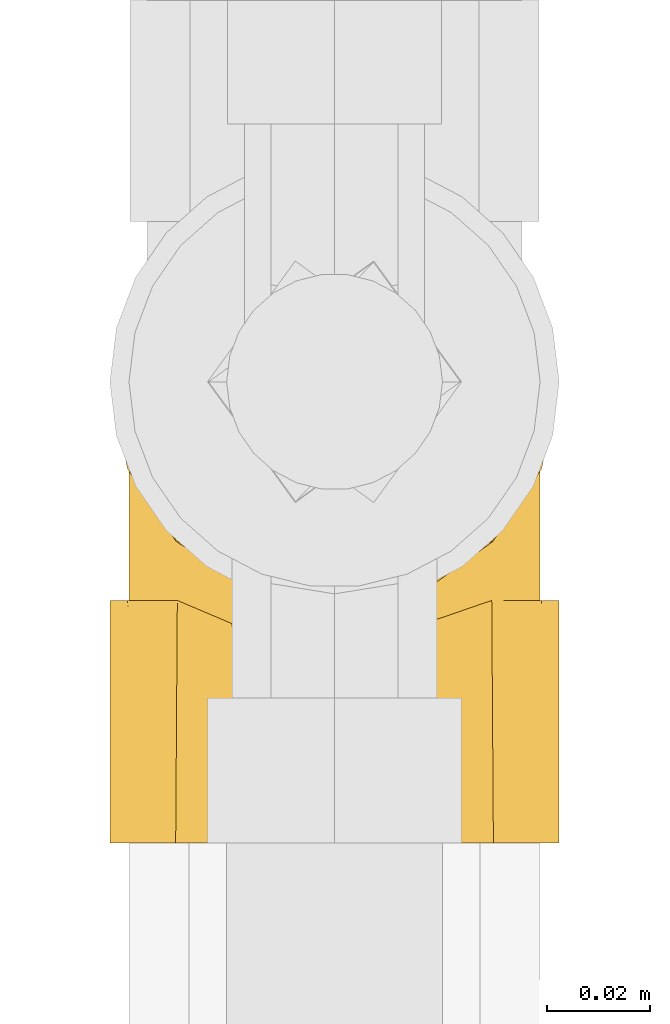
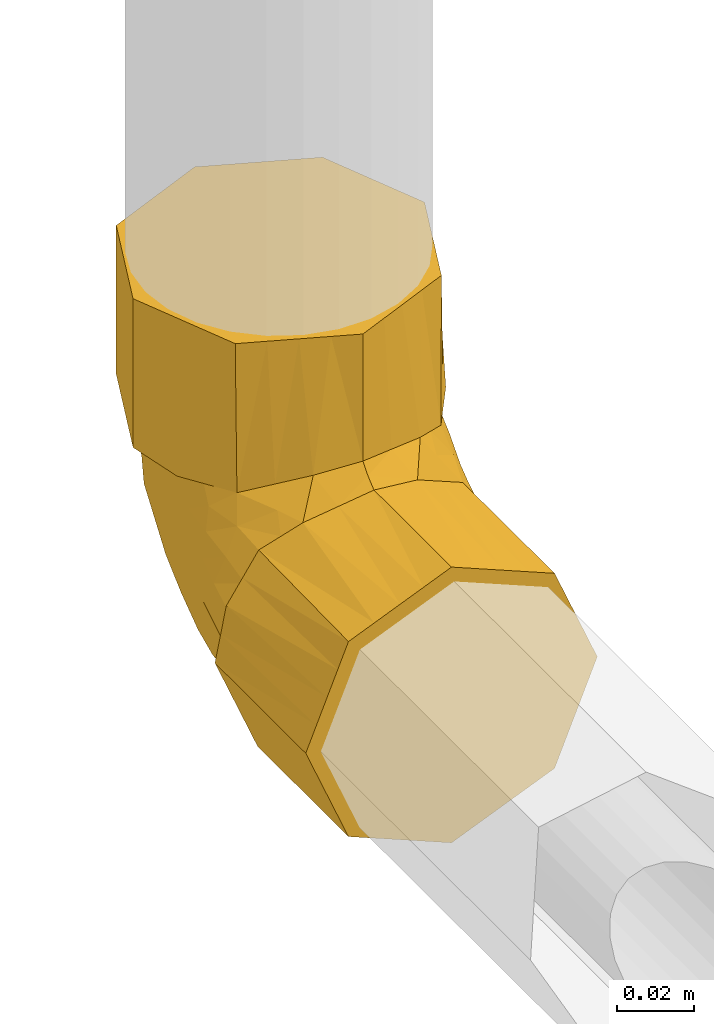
# One storey, part 256 of 652: 1 covering.
"""IFC2X3 building model written with IfcOpenShell, lengths in millimetres."""

from ifc_helpers import new_model, entity, si_unit, converted_unit, direction, frame, origin, place, context, subcontext, project, spatial, faceted_brep, material, type_object, element, save


model = new_model("IFC2X3")

# Units and contexts
model_context = context("Model", 3, precision=0.01, world=frame((0.0, 0.0, 308426.39999999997)), true_north=direction((6.123233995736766e-17, 1.0)))
plan_context = context("Plan", 3, precision=0.01, world=frame((0.0, 0.0, 308426.39999999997)), true_north=direction((6.123233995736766e-17, 1.0)))
body_context = subcontext(model_context, "Body", "Model", "MODEL_VIEW")
ifc_project = project(units=[si_unit("LENGTHUNIT", "METRE", prefix="MILLI"), si_unit("AREAUNIT", "SQUARE_METRE"), si_unit("VOLUMEUNIT", "CUBIC_METRE"), converted_unit("PLANEANGLEUNIT", "DEGREE", entity("IfcPlaneAngleMeasure", 0.017453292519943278), si_unit("PLANEANGLEUNIT", "RADIAN"), dimensions=[0, 0, 0, 0, 0, 0, 0])], contexts=[model_context, plan_context])

# Site, building, storey
site_placement = place(None, origin())
site = spatial("IfcSite", under=ifc_project, at=site_placement, Name="Default", CompositionType="ELEMENT")
building_placement = place(site_placement, origin())
building = spatial("IfcBuilding", under=site, at=building_placement, CompositionType="ELEMENT")
storey_placement = place(building_placement, frame((0.0, 0.0, 1730.6999999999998)))
storey = spatial("IfcBuildingStorey", under=building, at=storey_placement, Name="EG_Produktion_FFB", CompositionType="ELEMENT", Elevation=1730.6999999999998)

# Covering
ifc_material = material(Name="Dämmung - Armaflex-Schlauch")
covering_type = type_object("IfcCoveringType", Name="Rohrdämmung außen:Armaflex-Schlauch", PredefinedType="INSULATION")
covering_placement = place(storey_placement, frame((79536.77747546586, 51548.308353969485, 2354.6847277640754)))
element("IfcCovering", 1, at=covering_placement, inside=storey, type_object=covering_type, material=ifc_material, Name="Rohrdämmung außen:Armaflex-Schlauch", ObjectType="Rohrdämmung außen:Armaflex-Schlauch", PredefinedType="INSULATION", context=body_context, shape_type="Brep", body=[
    faceted_brep([(1.5952722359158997, 47.17999999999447, 45.31527223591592), (3.3049417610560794, 47.17999999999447, 53.79016348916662), (5.014611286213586, 47.17999999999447, 62.26505474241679), (9.868813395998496, 47.17999999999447, 69.40707922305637), (14.723015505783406, 47.17999999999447, 76.54910370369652), (10.581665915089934, 47.17999999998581, 67.43551000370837), (6.440316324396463, 47.17999999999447, 58.3219163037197), (5.315272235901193, 47.17999999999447, 48.321763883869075), (8.855811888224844, 47.17999999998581, 40.633175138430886), (12.39635154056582, 47.17999999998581, 32.94458639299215), (16.24116612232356, 47.17999999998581, 24.595238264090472), (20.085980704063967, 47.17999999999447, 16.245890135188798), (32.70062646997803, 47.17999999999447, 11.677312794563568), (45.315272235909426, 47.17999999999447, 7.1087354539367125), (53.1972475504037, 47.17999999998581, 11.036427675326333), (61.07922286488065, 47.17999999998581, 14.964119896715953), (68.96119817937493, 47.17999999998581, 18.891812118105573), (76.8431734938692, 47.17999999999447, 22.81950433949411), (79.9118619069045, 47.17999999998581, 32.05670644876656), (82.61356707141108, 47.17999999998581, 40.18923516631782), (85.31527223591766, 47.17999999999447, 48.321763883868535), (84.47655416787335, 47.17999999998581, 52.07968978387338), (83.63783609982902, 47.17999999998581, 55.83761568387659), (82.29640860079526, 47.17999999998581, 61.84796091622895), (80.9549811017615, 47.17999999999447, 67.85830614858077), (75.90752896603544, 47.17999999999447, 76.54910370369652), (80.76173107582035, 47.17999999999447, 69.40707922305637), (85.61593318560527, 47.17999999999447, 62.26505474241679), (87.32560271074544, 47.17999999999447, 53.79016348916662), (89.03527223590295, 47.17999999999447, 45.31527223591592), (85.55401064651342, 47.17999999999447, 36.91076329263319), (82.63262647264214, 47.17999999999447, 29.8579179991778), (79.43130359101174, 47.17999999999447, 22.12924088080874), (76.22998070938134, 47.17999999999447, 14.400563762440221), (68.50130359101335, 47.17999999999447, 11.199240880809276), (60.772626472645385, 47.17999999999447, 7.9979179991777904), (53.719779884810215, 47.17999999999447, 5.076533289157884), (45.315272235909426, 47.17999999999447, 1.5952722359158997), (36.910763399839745, 47.17999999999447, 5.076533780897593), (29.85791799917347, 47.17999999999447, 7.9979179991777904), (22.129240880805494, 47.17999999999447, 11.199240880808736), (14.400563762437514, 47.17999999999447, 14.400563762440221), (11.19924088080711, 47.17999999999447, 22.12924088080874), (7.997917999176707, 47.17999999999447, 29.8579179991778), (5.076533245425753, 47.17999999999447, 36.91076469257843), (85.55401120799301, 0.0, 53.71977982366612), (82.63262647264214, 0.0, 60.772626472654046), (79.43130359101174, 0.0, 68.5013035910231), (76.22998070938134, 0.0, 76.22998070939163), (68.50130359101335, 0.0, 79.43130359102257), (60.772626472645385, 0.0, 82.63262647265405), (53.0439493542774, 0.0, 85.833949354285), (45.315272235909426, 0.0, 89.03527223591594), (36.910764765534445, 0.0, 85.55401125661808), (29.85791799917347, 0.0, 82.63262647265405), (22.129240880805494, 0.0, 79.43130359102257), (14.400563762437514, 0.0, 76.22998070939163), (11.19924088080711, 0.0, 68.50130359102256), (7.997917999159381, 0.0, 60.772626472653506), (4.796595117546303, 0.0, 53.04394935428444), (1.5952722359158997, 0.0, 45.31527223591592), (4.796595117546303, 0.0, 37.586595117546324), (7.997917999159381, 0.0, 29.85791799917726), (11.19924088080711, 0.0, 22.12924088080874), (14.400563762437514, 0.0, 14.400563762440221), (22.129240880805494, 0.0, 11.199240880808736), (29.857917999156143, 0.0, 7.9979179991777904), (37.58659511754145, 0.0, 4.796595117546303), (45.315272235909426, 0.0, 1.5952722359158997), (53.0439493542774, 0.0, 4.796595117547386), (60.772626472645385, 0.0, 7.9979179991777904), (68.50130359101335, 0.0, 11.199240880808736), (76.22998070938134, 0.0, 14.400563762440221), (79.15136474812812, 0.0, 21.453408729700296), (82.07274878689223, 0.0, 28.50625369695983), (85.55401051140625, 0.0, 36.91076296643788), (89.03527223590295, 0.0, 45.31527223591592), (45.315272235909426, 40.28038015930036, 89.03527223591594), (58.96774864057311, 41.33169831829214, 86.84897286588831), (67.43763880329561, 44.2558491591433, 81.69903828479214), (35.33597719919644, 41.4695585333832, 86.62452082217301), (25.356682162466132, 42.65873690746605, 84.21376940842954), (20.03984883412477, 44.91936845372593, 80.38143655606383), (1.5952722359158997, 89.71999999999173, 87.85527223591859), (5.076533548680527, 98.12450827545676, 87.85527223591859), (7.997917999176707, 105.17735423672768, 87.85527223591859), (11.19924088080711, 112.90603135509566, 87.85527223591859), (14.400563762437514, 120.6347084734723, 87.85527223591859), (22.129240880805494, 123.83603135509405, 87.85527223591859), (29.85791799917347, 127.03735423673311, 87.85527223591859), (36.91076472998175, 129.95873900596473, 87.85527223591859), (45.315272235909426, 133.43999999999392, 87.85527223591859), (53.71978088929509, 129.9587385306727, 87.85527223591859), (60.772626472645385, 127.03735423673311, 87.85527223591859), (68.50130359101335, 123.8360313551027, 87.85527223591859), (76.22998070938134, 120.6347084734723, 87.85527223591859), (79.43130359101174, 112.90603135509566, 87.85527223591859), (82.63262647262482, 105.17735423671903, 87.85527223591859), (85.55401103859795, 98.12450799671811, 87.85527223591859), (89.03527223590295, 89.71999999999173, 87.85527223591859), (87.32560271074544, 81.2451087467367, 87.85527223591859), (85.61593318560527, 72.77021749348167, 87.85527223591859), (80.76173107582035, 65.62819301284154, 87.85527223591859), (75.90752896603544, 58.4861685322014, 87.85527223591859), (80.04887855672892, 67.59976223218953, 87.85527223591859), (84.19022814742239, 76.71335593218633, 87.85527223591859), (85.31527223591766, 86.71350835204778, 87.85527223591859), (81.7747326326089, 94.40209699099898, 87.85527223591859), (78.23419302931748, 102.09068562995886, 87.85527223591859), (74.38937839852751, 110.44003386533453, 87.85527223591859), (70.54456376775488, 118.78938210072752, 87.85527223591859), (57.92991800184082, 123.35795944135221, 87.85527223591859), (45.315272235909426, 127.92653678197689, 87.85527223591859), (37.66448146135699, 124.11404686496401, 87.85527223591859), (30.013690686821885, 120.30155694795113, 87.85527223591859), (21.900530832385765, 116.25866242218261, 87.85527223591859), (13.78737097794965, 112.21576789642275, 87.85527223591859), (10.718682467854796, 102.97856549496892, 87.85527223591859), (8.016977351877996, 94.84603692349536, 87.85527223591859), (5.315272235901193, 86.71350835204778, 87.85527223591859), (6.153990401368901, 82.95558201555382, 87.85527223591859), (6.992708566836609, 79.19765567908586, 87.85527223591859), (8.334135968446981, 73.18731088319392, 87.85527223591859), (9.675563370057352, 67.17696608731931, 87.85527223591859), (14.723015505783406, 58.4861685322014, 87.85527223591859), (9.868813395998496, 65.62819301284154, 87.85527223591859), (5.014611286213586, 72.77021749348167, 87.85527223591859), (3.3049417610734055, 81.2451087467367, 87.85527223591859), (85.83394935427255, 97.44867711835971, 135.03527223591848), (82.63262647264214, 105.17735423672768, 135.03527223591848), (79.43130359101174, 112.90603135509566, 135.03527223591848), (76.22998070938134, 120.6347084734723, 135.03527223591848), (69.17713564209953, 123.55609255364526, 135.03527223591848), (62.12429057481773, 126.47747663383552, 135.03527223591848), (53.71978140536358, 129.95873831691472, 135.03527223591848), (45.315272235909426, 133.43999999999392, 135.03527223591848), (37.58659511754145, 130.2386771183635, 135.03527223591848), (29.85791799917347, 127.03735423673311, 135.03527223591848), (22.129240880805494, 123.8360313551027, 135.03527223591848), (14.400563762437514, 120.6347084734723, 135.03527223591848), (11.479179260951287, 113.58186238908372, 135.03527223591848), (8.557794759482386, 106.52901630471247, 135.03527223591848), (5.0765334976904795, 98.12450815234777, 135.03527223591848), (1.5952722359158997, 89.71999999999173, 135.03527223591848), (5.076533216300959, 81.31549252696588, 135.03527223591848), (7.997917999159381, 74.26264576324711, 135.03527223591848), (11.19924088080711, 66.53396864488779, 135.03527223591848), (14.400563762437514, 58.805291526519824, 135.03527223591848), (22.129240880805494, 55.60396864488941, 135.03527223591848), (29.85791799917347, 52.40264576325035, 135.03527223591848), (37.58659511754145, 49.201322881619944, 135.03527223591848), (45.315272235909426, 46.0, 135.03527223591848), (53.719779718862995, 49.48126098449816, 135.03527223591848), (60.772626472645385, 52.40264576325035, 135.03527223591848), (68.50130359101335, 55.60396864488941, 135.03527223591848), (76.22998070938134, 58.805291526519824, 135.03527223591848), (79.43130359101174, 66.53396864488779, 135.03527223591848), (82.63262647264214, 74.26264576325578, 135.03527223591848), (85.55401051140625, 81.31549073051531, 135.03527223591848), (89.03527223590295, 89.71999999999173, 135.03527223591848), (55.29456727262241, 48.41075141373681, 93.56571370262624), (45.315272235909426, 46.0, 94.75489207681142), (65.27386230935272, 50.82150282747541, 92.37653532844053), (70.59069563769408, 54.65383567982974, 90.11590378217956), (31.662795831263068, 48.18629937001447, 93.70357391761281), (23.192905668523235, 53.33623395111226, 90.77942307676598), (77.8658762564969, 69.00398703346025, 32.54265070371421), (82.84467162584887, 79.26910311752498, 51.429283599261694), (82.52556184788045, 64.28083873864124, 39.73108312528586), (84.62352217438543, 81.73107569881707, 63.427735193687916), (85.31527223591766, 79.20442983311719, 75.59759657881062), (85.31527223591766, 78.10776438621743, 73.80742095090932), (85.31527223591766, 74.901557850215, 68.57367093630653), (85.31527223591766, 71.69535131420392, 63.33992092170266), (84.76623114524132, 67.73559181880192, 51.366056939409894), (66.05232360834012, 62.90914025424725, 17.630996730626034), (72.22141766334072, 64.29367597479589, 23.177365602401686), (71.71080253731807, 109.22554710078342, 64.17997612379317), (78.22924719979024, 102.7031104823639, 67.51314169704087), (62.809495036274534, 108.27850507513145, 51.242942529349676), (64.91193348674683, 117.47651375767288, 70.5073707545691), (75.72471560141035, 89.70611796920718, 44.60323784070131), (73.02350929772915, 79.39119784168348, 32.3733990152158), (68.32454403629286, 94.79312059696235, 40.16518469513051), (79.98762004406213, 90.62231442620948, 54.501993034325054), (45.31527223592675, 62.390771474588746, 16.36207193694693), (55.59342986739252, 69.82106388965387, 15.721031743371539), (54.752738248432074, 108.04868616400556, 46.000451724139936), (55.297324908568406, 118.2991624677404, 62.88363947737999), (82.65380542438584, 93.39961730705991, 68.05804006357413), (66.96108775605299, 77.9271629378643, 25.7139636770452), (55.48321494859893, 94.5123912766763, 31.7201846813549), (62.6247388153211, 90.48949943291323, 31.732403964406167), (45.315272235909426, 108.02308589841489, 44.122081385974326), (45.315272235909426, 119.72050695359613, 69.82443573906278), (45.315272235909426, 77.60154294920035, 25.615408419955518), (45.315272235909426, 92.81231442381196, 34.86874490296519), (85.31527223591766, 82.41063636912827, 80.83134659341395), (85.31527223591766, 66.46160079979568, 60.13371407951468), (85.31527223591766, 61.227850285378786, 56.9275072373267), (85.31527223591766, 54.20392514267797, 52.62463556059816), (85.31527223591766, 50.69196257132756, 50.473199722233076), (84.11551811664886, 71.72947387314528, 78.77641040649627), (84.10693973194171, 67.36010628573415, 72.99735377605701), (83.79173661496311, 56.52012715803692, 64.92960904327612), (84.6791196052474, 65.04087912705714, 66.80037174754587), (82.61861058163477, 59.90607442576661, 72.04093677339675), (81.34638912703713, 63.431363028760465, 80.24278960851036), (45.315272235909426, 43.411080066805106, 91.62419216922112), (69.27986326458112, 49.26110762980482, 86.20019924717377), (77.75187936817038, 55.144422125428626, 79.89085022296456), (81.1215429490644, 53.03286107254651, 70.89843278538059), (8.011933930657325, 62.994335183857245, 75.12919765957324), (9.284155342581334, 54.79248203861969, 71.60390875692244), (12.878664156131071, 55.144423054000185, 79.89084929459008), (5.315272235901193, 61.22785028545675, 56.92750723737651), (5.315272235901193, 59.437675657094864, 55.83084240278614), (5.315272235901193, 54.20392514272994, 52.62463556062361), (21.350681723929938, 48.83507246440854, 85.77416463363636), (9.509001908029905, 64.13683850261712, 82.00241115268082), (6.838807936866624, 70.10566333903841, 78.51514579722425), (6.523604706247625, 62.03791892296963, 67.67516617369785), (5.951424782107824, 68.234901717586, 69.99439375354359), (5.315272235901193, 71.69535131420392, 63.33992092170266), (6.5150263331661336, 56.25886243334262, 63.30579864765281), (5.315272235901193, 66.46160079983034, 60.13371407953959), (5.315272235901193, 84.56207236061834, 84.34330941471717), (5.315272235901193, 82.41063636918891, 80.8313465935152), (5.315272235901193, 78.1077643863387, 73.80742095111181), (5.315272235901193, 74.90155785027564, 68.57367093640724), (18.716447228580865, 112.0627296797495, 70.51865502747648), (24.918359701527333, 117.6298165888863, 72.14354849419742), (23.797144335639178, 109.44097839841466, 57.14683994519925), (31.915050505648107, 102.73486486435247, 41.37324137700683), (23.59450518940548, 96.00640061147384, 40.153921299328), (36.271351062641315, 69.7757408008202, 15.362731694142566), (33.851954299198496, 117.47983892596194, 62.156265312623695), (6.007022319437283, 71.6075366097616, 53.304196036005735), (7.977727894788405, 66.97986259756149, 41.63422557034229), (7.785872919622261, 83.60598780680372, 55.766167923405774), (10.643004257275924, 80.536715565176, 44.41565800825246), (8.104982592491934, 95.30418854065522, 70.75443260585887), (5.86431334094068, 83.66921531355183, 67.29968029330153), (14.905829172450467, 90.43203242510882, 45.32915177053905), (12.764668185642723, 102.49262071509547, 66.03128380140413), (17.67010013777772, 102.7427878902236, 55.65510988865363), (18.662195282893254, 71.20903818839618, 26.25552697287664), (12.346778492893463, 66.84410548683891, 32.067232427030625), (27.95946128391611, 83.52574882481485, 26.490988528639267), (27.504504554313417, 64.64552317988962, 16.586611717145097), (37.02608684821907, 90.05399086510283, 27.44243292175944)], [[[0, 1, 2, 3, 4, 5, 6, 7, 8, 9, 10, 11, 12, 13, 14, 15, 16, 17, 18, 19, 20, 21, 22, 23, 24, 25, 26, 27, 28, 29, 30, 31, 32, 33, 34, 35, 36, 37, 38, 39, 40, 41, 42, 43, 44]], [[45, 46, 47, 48, 49, 50, 51, 52, 53, 54, 55, 56, 57, 58, 59, 60, 61, 62, 63, 64, 65, 66, 67, 68, 69, 70, 71, 72, 73, 74, 75, 76]], [[45, 27, 47, 46]], [[77, 51, 78]], [[78, 50, 79]], [[51, 77, 52]], [[25, 79, 49]], [[27, 45, 28]], [[48, 26, 25]], [[51, 50, 78]], [[76, 28, 45]], [[76, 29, 28]], [[47, 27, 26]], [[26, 48, 47]], [[25, 49, 48]], [[79, 50, 49]], [[30, 29, 76, 75, 74, 73, 72, 33, 32, 31]], [[33, 72, 71, 70, 69, 68, 37, 36, 35, 34]], [[0, 44, 43, 42, 41, 64, 63, 62, 61, 60]], [[66, 65, 64, 41, 40, 39, 38, 37, 68, 67]], [[3, 57, 56]], [[60, 59, 0]], [[80, 54, 53]], [[58, 2, 1]], [[58, 57, 2]], [[55, 81, 82, 4]], [[53, 77, 80]], [[2, 57, 3]], [[1, 59, 58]], [[56, 4, 3]], [[54, 80, 81]], [[0, 59, 1]], [[53, 52, 77]], [[55, 4, 56]], [[55, 54, 81]], [[83, 84, 85, 86, 87, 88, 89, 90, 91, 92, 93, 94, 95, 96, 97, 98, 99, 100, 101, 102, 103, 104, 105, 106, 107, 108, 109, 110, 111, 112, 113, 114, 115, 116, 117, 118, 119, 120, 121, 122, 123, 124, 125, 126, 127]], [[128, 129, 130, 131, 132, 133, 134, 135, 136, 137, 138, 139, 140, 141, 142, 143, 144, 145, 146, 147, 148, 149, 150, 151, 152, 153, 154, 155, 156, 157, 158, 159]], [[133, 132, 131, 95, 94, 93, 92, 91, 135, 134]], [[95, 131, 130, 129, 128, 159, 99, 98, 97, 96]], [[102, 156, 155]], [[160, 153, 152]], [[99, 159, 100]], [[157, 156, 101, 158]], [[158, 101, 100]], [[152, 161, 160]], [[101, 156, 102]], [[154, 162, 163, 103]], [[155, 103, 102]], [[153, 160, 162]], [[159, 158, 100]], [[152, 151, 161]], [[154, 103, 155]], [[154, 153, 162]], [[125, 147, 146]], [[143, 83, 127]], [[161, 150, 164]], [[164, 149, 165]], [[150, 161, 151]], [[147, 125, 124]], [[126, 144, 127]], [[146, 145, 144, 126]], [[124, 148, 147]], [[143, 127, 144]], [[150, 149, 164]], [[146, 126, 125]], [[124, 165, 148]], [[165, 149, 148]], [[84, 83, 143, 142, 141, 140, 139, 87, 86, 85]], [[87, 139, 138, 137, 136, 135, 91, 90, 89, 88]], [[166, 167, 168]], [[169, 170, 171, 172, 173]], [[19, 168, 174]], [[17, 166, 18]], [[175, 176, 16]], [[177, 109, 178]], [[179, 180, 177]], [[181, 182, 183]], [[166, 181, 184]], [[14, 185, 186]], [[187, 188, 179]], [[184, 189, 167]], [[182, 181, 166]], [[176, 175, 190]], [[186, 191, 192]], [[166, 184, 167]], [[169, 174, 167]], [[188, 193, 194]], [[110, 109, 177]], [[190, 175, 186]], [[175, 16, 15]], [[186, 175, 15]], [[176, 190, 182]], [[186, 15, 14]], [[186, 195, 191]], [[196, 193, 187]], [[179, 183, 192]], [[184, 178, 189]], [[191, 195, 196]], [[178, 109, 108]], [[183, 177, 181]], [[178, 108, 189]], [[181, 177, 178]], [[189, 108, 107]], [[107, 106, 197, 170]], [[170, 169, 107]], [[169, 173, 174]], [[167, 189, 169]], [[107, 169, 189]], [[174, 173, 198, 199, 200, 201, 20]], [[174, 20, 19]], [[168, 19, 18]], [[166, 168, 18]], [[174, 168, 167]], [[111, 180, 188]], [[110, 177, 180]], [[194, 112, 111]], [[178, 184, 181]], [[188, 180, 179]], [[111, 110, 180]], [[179, 191, 187]], [[111, 188, 194]], [[187, 191, 196]], [[193, 188, 187]], [[192, 183, 190]], [[177, 183, 179]], [[166, 17, 176]], [[183, 182, 190]], [[166, 176, 182]], [[17, 16, 176]], [[185, 14, 13]], [[185, 195, 186]], [[186, 192, 190]], [[179, 192, 191]], [[172, 202, 203]], [[204, 205, 206]], [[23, 22, 21, 20, 201, 200, 199]], [[202, 104, 207]], [[208, 77, 78]], [[203, 173, 172]], [[203, 202, 207]], [[105, 104, 202]], [[163, 162, 209]], [[203, 205, 173]], [[197, 106, 105, 171, 170]], [[207, 206, 203]], [[210, 207, 103]], [[104, 103, 207]], [[160, 161, 208]], [[210, 163, 209]], [[206, 207, 210]], [[210, 25, 211]], [[204, 211, 24]], [[209, 25, 210]], [[78, 79, 25, 209]], [[105, 202, 171]], [[210, 103, 163]], [[78, 209, 162]], [[205, 203, 206]], [[172, 171, 202]], [[206, 211, 204]], [[204, 198, 205]], [[204, 24, 23]], [[210, 211, 206]], [[199, 204, 23]], [[198, 204, 199]], [[198, 173, 205]], [[25, 24, 211]], [[78, 160, 208]], [[78, 162, 160]], [[212, 213, 214]], [[6, 215, 216, 217, 7]], [[82, 218, 214]], [[219, 123, 220]], [[214, 213, 4]], [[5, 4, 213]], [[221, 222, 223]], [[208, 80, 77]], [[218, 124, 214]], [[161, 164, 208]], [[214, 124, 219]], [[6, 5, 224]], [[82, 81, 218]], [[224, 5, 213]], [[225, 224, 221]], [[220, 222, 212]], [[122, 121, 120, 119, 226, 227, 228]], [[164, 165, 124, 218]], [[221, 223, 225]], [[213, 212, 221]], [[221, 224, 213]], [[6, 224, 215]], [[214, 4, 82]], [[164, 218, 81]], [[222, 221, 212]], [[225, 215, 224]], [[212, 219, 220]], [[220, 229, 222]], [[220, 123, 122]], [[214, 219, 212]], [[228, 220, 122]], [[229, 220, 228]], [[229, 223, 222]], [[124, 123, 219]], [[164, 80, 208]], [[164, 81, 80]], [[230, 115, 231]], [[232, 233, 234]], [[12, 235, 13]], [[113, 194, 236]], [[237, 216, 215, 225, 223]], [[236, 232, 231]], [[238, 239, 240]], [[230, 231, 232]], [[118, 241, 242]], [[243, 244, 245]], [[246, 10, 247]], [[116, 244, 117]], [[244, 243, 240]], [[244, 239, 241]], [[248, 249, 246]], [[247, 238, 240]], [[237, 242, 239]], [[232, 236, 233]], [[250, 193, 196, 195]], [[113, 236, 114]], [[233, 248, 234]], [[113, 112, 194]], [[193, 236, 194]], [[236, 193, 233]], [[233, 250, 248]], [[231, 115, 114]], [[248, 250, 235]], [[248, 235, 249]], [[235, 250, 195]], [[235, 195, 185, 13]], [[235, 12, 249]], [[12, 11, 249]], [[246, 249, 11]], [[10, 9, 247]], [[234, 246, 243]], [[246, 234, 248]], [[245, 234, 243]], [[246, 11, 10]], [[247, 9, 238]], [[243, 246, 247]], [[238, 9, 8]], [[8, 7, 217, 216]], [[216, 237, 8]], [[237, 223, 242]], [[239, 238, 237]], [[8, 237, 238]], [[242, 223, 229, 228, 227, 226, 119]], [[242, 119, 118]], [[241, 118, 117]], [[244, 241, 117]], [[242, 241, 239]], [[244, 240, 239]], [[247, 240, 243]], [[193, 250, 233]], [[236, 231, 114]], [[230, 232, 245]], [[244, 116, 230]], [[234, 245, 232]], [[244, 230, 245]], [[116, 115, 230]]]),
])

save(model, "model.ifc")
